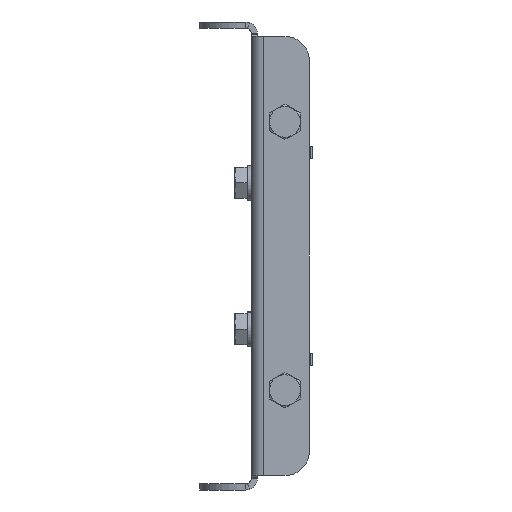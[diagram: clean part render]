
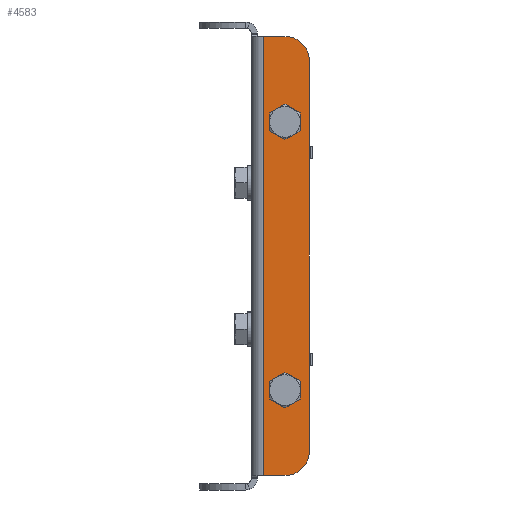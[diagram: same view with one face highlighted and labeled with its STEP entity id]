
A CAD part, left-side view. The second image highlights one B-rep face of the part: STEP entity #4583.
In plain terms, the highlighted planar face has unit normal (-1, 0, 0).
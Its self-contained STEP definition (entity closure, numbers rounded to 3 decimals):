
#3697=FACE_BOUND('',#5633,.T.);
#3698=FACE_BOUND('',#5634,.T.);
#3699=FACE_BOUND('',#5635,.T.);
#4175=PLANE('',#11297);
#4583=ADVANCED_FACE('',(#3697,#3698,#3699),#4175,.F.);
#5633=EDGE_LOOP('',(#8284,#8285,#8286,#8287,#8288,#8289));
#5634=EDGE_LOOP('',(#8290));
#5635=EDGE_LOOP('',(#8291));
#6101=LINE('',#16244,#6541);
#6105=LINE('',#16258,#6545);
#6110=LINE('',#16280,#6550);
#6111=LINE('',#16282,#6551);
#6541=VECTOR('',#13022,1.);
#6545=VECTOR('',#13034,1.);
#6550=VECTOR('',#13061,1.);
#6551=VECTOR('',#13064,1.);
#8284=ORIENTED_EDGE('',*,*,#10148,.F.);
#8285=ORIENTED_EDGE('',*,*,#10166,.T.);
#8286=ORIENTED_EDGE('',*,*,#10150,.T.);
#8287=ORIENTED_EDGE('',*,*,#10154,.T.);
#8288=ORIENTED_EDGE('',*,*,#10157,.F.);
#8289=ORIENTED_EDGE('',*,*,#10165,.F.);
#8290=ORIENTED_EDGE('',*,*,#10160,.T.);
#8291=ORIENTED_EDGE('',*,*,#10162,.F.);
#9199=VERTEX_POINT('',#16231);
#9201=VERTEX_POINT('',#16237);
#9203=VERTEX_POINT('',#16247);
#9205=VERTEX_POINT('',#16250);
#9207=VERTEX_POINT('',#16256);
#9209=VERTEX_POINT('',#16262);
#9212=VERTEX_POINT('',#16270);
#9214=VERTEX_POINT('',#16275);
#10148=EDGE_CURVE('',#9199,#9201,#6101,.T.);
#10150=EDGE_CURVE('',#9205,#9203,#10599,.T.);
#10154=EDGE_CURVE('',#9203,#9207,#6105,.T.);
#10157=EDGE_CURVE('',#9209,#9207,#10601,.T.);
#10160=EDGE_CURVE('',#9212,#9212,#10604,.T.);
#10162=EDGE_CURVE('',#9214,#9214,#10606,.T.);
#10165=EDGE_CURVE('',#9201,#9209,#6110,.T.);
#10166=EDGE_CURVE('',#9199,#9205,#6111,.T.);
#10599=CIRCLE('',#11282,12.7);
#10601=CIRCLE('',#11286,12.7);
#10604=CIRCLE('',#11290,5.461);
#10606=CIRCLE('',#11293,5.461);
#11282=AXIS2_PLACEMENT_3D('',#16249,#13026,#13027);
#11286=AXIS2_PLACEMENT_3D('',#16264,#13039,#13040);
#11290=AXIS2_PLACEMENT_3D('',#16269,#13047,#13048);
#11293=AXIS2_PLACEMENT_3D('',#16274,#13053,#13054);
#11297=AXIS2_PLACEMENT_3D('',#16283,#13065,#13066);
#13022=DIRECTION('',(0.,0.,1.));
#13026=DIRECTION('',(-1.,0.,0.));
#13027=DIRECTION('',(0.,1.,0.));
#13034=DIRECTION('',(0.,0.,1.));
#13039=DIRECTION('',(1.,0.,0.));
#13040=DIRECTION('',(0.,-1.,0.));
#13047=DIRECTION('',(1.,0.,0.));
#13048=DIRECTION('',(0.,1.,0.));
#13053=DIRECTION('',(-1.,0.,0.));
#13054=DIRECTION('',(0.,-1.,0.));
#13061=DIRECTION('',(0.,-1.,0.));
#13064=DIRECTION('',(0.,-1.,0.));
#13065=DIRECTION('',(1.,0.,0.));
#13066=DIRECTION('',(0.,1.,0.));
#16231=CARTESIAN_POINT('',(-45.641,98.425,1675.206));
#16237=CARTESIAN_POINT('',(-45.641,98.425,1903.806));
#16244=CARTESIAN_POINT('',(-45.641,98.425,1633.313));
#16247=CARTESIAN_POINT('',(-45.641,74.613,1687.906));
#16249=CARTESIAN_POINT('',(-45.641,87.313,1687.906));
#16250=CARTESIAN_POINT('',(-45.641,87.313,1675.206));
#16256=CARTESIAN_POINT('',(-45.641,74.613,1891.106));
#16258=CARTESIAN_POINT('',(-45.641,74.613,1633.313));
#16262=CARTESIAN_POINT('',(-45.641,87.313,1903.806));
#16264=CARTESIAN_POINT('',(-45.641,87.313,1891.106));
#16269=CARTESIAN_POINT('',(-45.641,87.313,1719.656));
#16270=CARTESIAN_POINT('',(-45.641,92.774,1719.656));
#16274=CARTESIAN_POINT('',(-45.641,87.313,1859.356));
#16275=CARTESIAN_POINT('',(-45.641,81.852,1859.356));
#16280=CARTESIAN_POINT('',(-45.641,38.171,1903.806));
#16282=CARTESIAN_POINT('',(-45.641,38.171,1675.206));
#16283=CARTESIAN_POINT('',(-45.641,38.171,1633.313));
